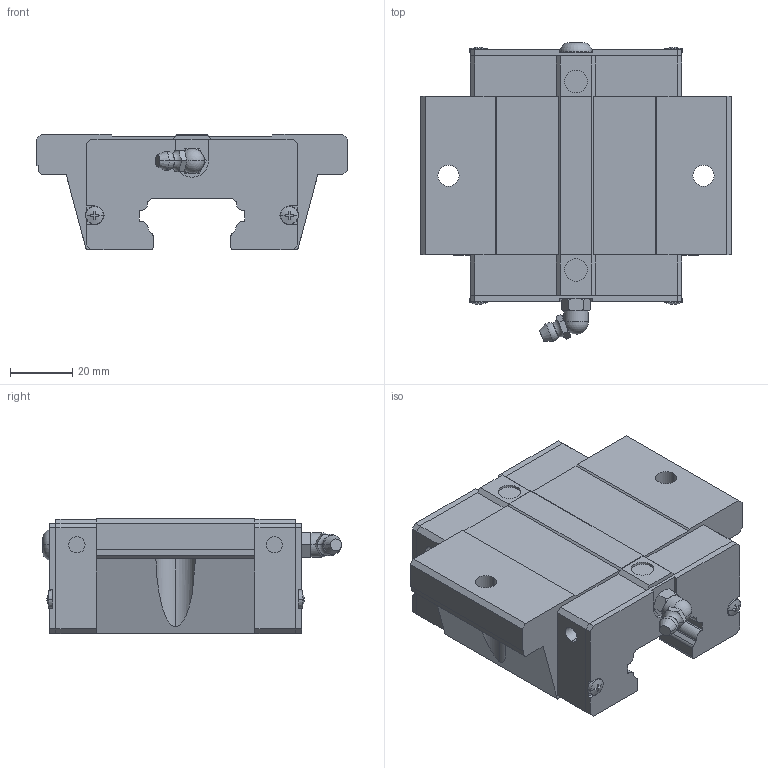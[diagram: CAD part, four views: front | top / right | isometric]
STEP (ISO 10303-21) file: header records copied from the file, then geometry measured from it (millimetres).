
FILE_DESCRIPTION(('no description'),'unknown implementation level');
FILE_NAME('QEW35SC_Z0_H_SS_30.stp',' ',('HIWIN GmbH'),('CADClick - KiM GmbH - www.kimweb.de'),'unknown preprocess','ACIS','unknown authorization');
FILE_SCHEMA(('automotive_design'));
Length unit declared in the file: millimetre
Products named in the file (1): QEW35SC Z0 H SS
Bounding box: 100 x 96.11 x 37 mm (x, y, z)
Volume: 186909.9 mm3; surface area: 30102.7 mm2
Topology: 1 solids, 5 shells, 348 faces, 934 edges, 604 vertices
Faces by surface type: plane 210, cylinder 80, cone 38, torus 18, sphere 2
Entity records: 21684 total; most frequent: CARTESIAN_POINT 2581, STYLED_ITEM 1885, PRESENTATION_STYLE_ASSIGNMENT 1885, COLOUR_RGB 1885, ORIENTED_EDGE 1864, DIRECTION 1754, EDGE_CURVE 932, CURVE_STYLE 932
